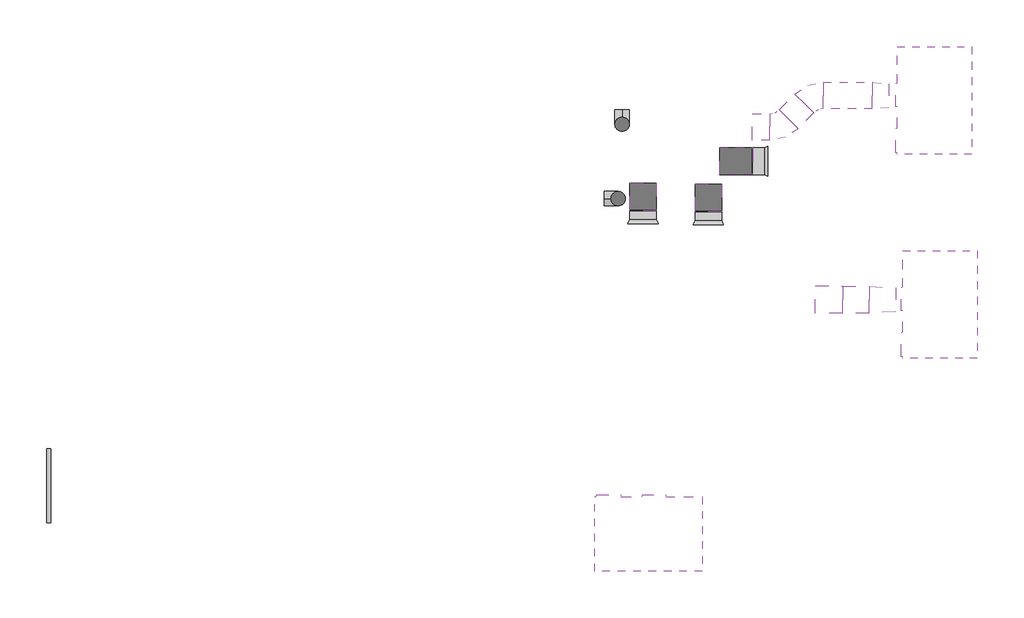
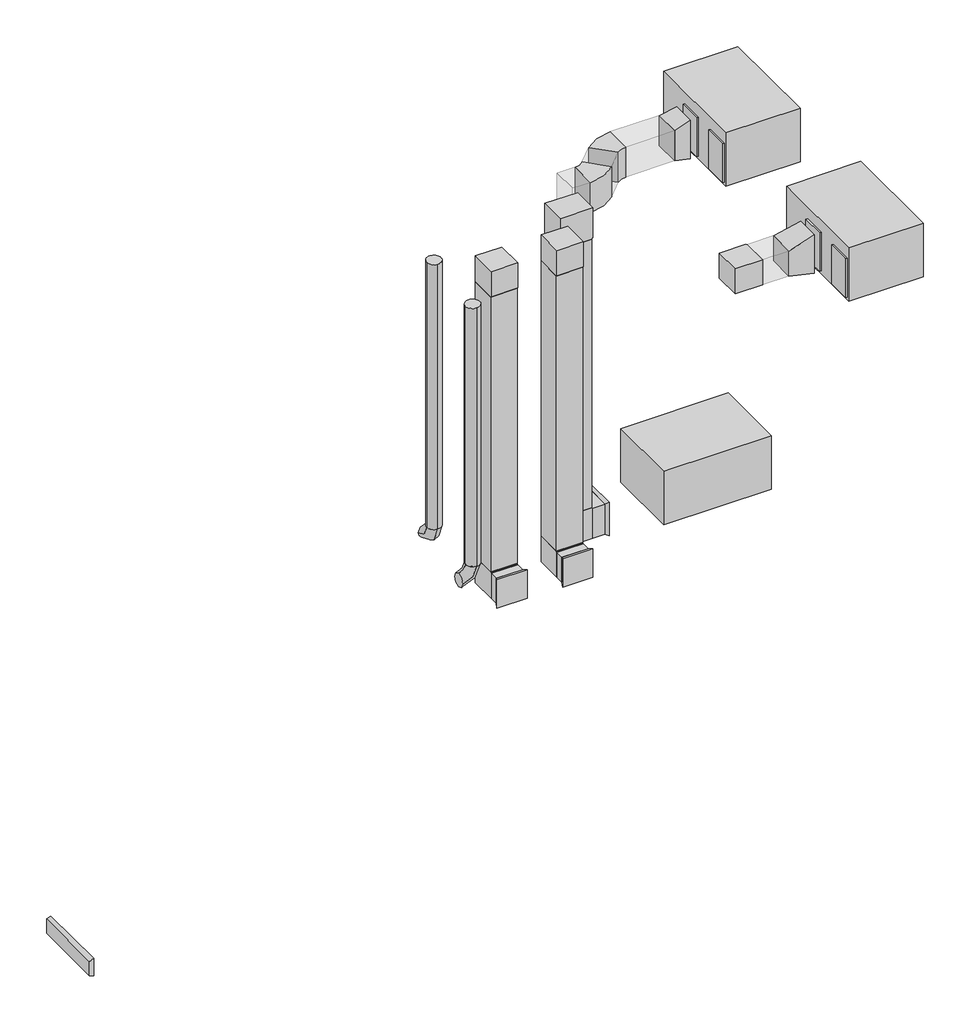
# One storey: 18 duct fittings, 12 duct segments, 3 proxies.
"""IFC4 building model written with IfcOpenShell, lengths in millimetres."""

from ifc_helpers import new_model, si_unit, point, frame, frame_2d, origin, place, context, project, spatial, polyline, circle_curve, trimmed, segment, composite_curve, outline, extrude, transform, mapped, element, save
from components import mechanical_equipment_75d9a657, rectangular_elbow_mitered_standard_415135ef, rectangular_elbow_mitered_standard_6dab44a9, rectangular_elbow_radius_1_w_3c7c7018, rectangular_transition_angle_30_degree_7e3f0487, rectangular_transition_angle_30_degree_99f9bb98, rectangular_transition_angle_45_degree_68a511a3, rectangular_transition_angle_45_degree_3b83c0c7, rectangular_transition_angle_60_degree_83ae2279, round_elbow_1_d_b161354f, round_elbow_1_d_06294a75, round_transition_angle_45_degree_2ea680a9

model = new_model("IFC4")

# Units and contexts
model_context = context("Model", 3, world=origin())
ifc_project = project(units=[si_unit("LENGTHUNIT", "METRE", prefix="MILLI")], contexts=[model_context])

# Site, building, storey
site = spatial("IfcSite", under=ifc_project)
building = spatial("IfcBuilding", under=site)
storey = spatial("IfcBuildingStorey", under=building, Name="T.O. L2 TERRANCE", Elevation=6019.8)

# Proxies
placement = place(None, origin())
mechanical_equipment_shape = mechanical_equipment_75d9a657(model_context)
element("IfcBuildingElementProxy", 1, Name="AC - Trane - 15-25 Ton : AC - Trane - 15-25 Ton", ObjectType="AC - Trane - 15-25 Ton : AC - Trane - 15-25 Ton", at=placement, inside=storey, context=model_context, shape_type="MappedRepresentation", body=[
    mapped(mechanical_equipment_shape, transform((25935.7645587, 24553.6277994, 13103.225), x_axis=(0.0, -1.0, 0.0), y_axis=(1.0, 0.0, 0.0), z_axis=(0.0, 0.0, 1.0))),
])
element("IfcBuildingElementProxy", 2, Name="AC - Trane - 15-25 Ton : AC - Trane - 15-25 Ton", ObjectType="AC - Trane - 15-25 Ton : AC - Trane - 15-25 Ton", at=placement, inside=storey, context=model_context, shape_type="MappedRepresentation", body=[
    mapped(mechanical_equipment_shape, transform((26093.4991741, 18706.9743636, 13103.225), x_axis=(0.0, -1.0, 0.0), y_axis=(1.0, 0.0, 0.0), z_axis=(0.0, 0.0, 1.0))),
])
element("IfcBuildingElementProxy", 3, Name="AC - Trane - 15-25 Ton : AC - Trane - 15-25 Ton", ObjectType="AC - Trane - 15-25 Ton : AC - Trane - 15-25 Ton", at=placement, inside=storey, context=model_context, shape_type="MappedRepresentation", body=[
    mapped(mechanical_equipment_shape, transform((17735.4015878, 12134.0231308, 13103.225), x_axis=(-1.0, 0.0, 0.0), y_axis=(0.0, -1.0, 0.0), z_axis=(0.0, 0.0, 1.0))),
])

# Duct fittings
rectangular_elbow_mitered_standard_shape = rectangular_elbow_mitered_standard_415135ef(model_context)
element("IfcDuctFitting", 4, ObjectType="Rectangular Elbow - Mitered : Standard", at=placement, inside=storey, context=model_context, shape_type="MappedRepresentation", body=[
    mapped(rectangular_elbow_mitered_standard_shape, transform((20235.8440695, 22814.3177743, 4674.87), x_axis=(0.0, 0.0, -1.0), y_axis=(1.0, 0.0, 0.0), z_axis=(0.0, -1.0, 0.0))),
])
element("IfcDuctFitting", 5, ObjectType="Rectangular Elbow - Mitered : Standard", at=placement, inside=storey, context=model_context, shape_type="MappedRepresentation", body=[
    mapped(rectangular_elbow_mitered_standard_shape, transform((20235.8440695, 22814.3177743, 13798.55), x_axis=(0.0, 0.0, 1.0), y_axis=(1.0, 0.0, 0.0), z_axis=(0.0, 1.0, 0.0))),
])
rectangular_elbow_mitered_standard_2_shape = rectangular_elbow_mitered_standard_6dab44a9(model_context)
element("IfcDuctFitting", 6, ObjectType="Rectangular Elbow - Mitered : Standard", at=placement, inside=storey, context=model_context, shape_type="MappedRepresentation", body=[
    mapped(rectangular_elbow_mitered_standard_2_shape, transform((19449.8841871, 21773.5073473, 4632.325), x_axis=(0.0, 0.0, -1.0), y_axis=(0.0, -1.0, 0.0), z_axis=(-1.0, 0.0, 0.0))),
])
element("IfcDuctFitting", 7, ObjectType="Rectangular Elbow - Mitered : Standard", at=placement, inside=storey, context=model_context, shape_type="MappedRepresentation", body=[
    mapped(rectangular_elbow_mitered_standard_2_shape, transform((17579.5449279, 21802.9058793, 4632.325), x_axis=(0.0, 0.0, -1.0), y_axis=(0.0, -1.0, 0.0), z_axis=(-1.0, 0.0, 0.0))),
])
element("IfcDuctFitting", 8, ObjectType="Rectangular Elbow - Mitered : Standard", at=placement, inside=storey, context=model_context, shape_type="MappedRepresentation", body=[
    mapped(rectangular_elbow_mitered_standard_2_shape, transform((22899.2550842, 18844.2931136, 13798.55), x_axis=(0.0, -1.0, 0.0), y_axis=(1.0, 0.0, 0.0), z_axis=(0.0, 0.0, 1.0))),
])
element("IfcDuctFitting", 9, ObjectType="Rectangular Elbow - Mitered : Standard", at=placement, inside=storey, context=model_context, shape_type="MappedRepresentation", body=[
    mapped(rectangular_elbow_mitered_standard_2_shape, transform((19449.8841871, 21773.5073473, 13798.55), x_axis=(0.0, 0.0, 1.0), y_axis=(0.0, -1.0, 0.0), z_axis=(1.0, 0.0, 0.0))),
])
element("IfcDuctFitting", 10, ObjectType="Rectangular Elbow - Mitered : Standard", at=placement, inside=storey, context=model_context, shape_type="MappedRepresentation", body=[
    mapped(rectangular_elbow_mitered_standard_2_shape, transform((17579.5449279, 21802.9058793, 13798.55), x_axis=(0.0, 0.0, 1.0), y_axis=(0.0, -1.0, 0.0), z_axis=(1.0, 0.0, 0.0))),
])
rectangular_elbow_radius_1_w_shape = rectangular_elbow_radius_1_w_3c7c7018(model_context)
element("IfcDuctFitting", 11, ObjectType="Rectangular Elbow - Radius : 1 W", at=placement, inside=storey, context=model_context, shape_type="MappedRepresentation", body=[
    mapped(rectangular_elbow_radius_1_w_shape, transform((22425.8897342, 24690.9465494, 13798.55), x_axis=(-1.0, 0.0, 0.0), y_axis=(0.0, -1.0, 0.0), z_axis=(0.0, 0.0, 1.0))),
])
element("IfcDuctFitting", 12, ObjectType="Rectangular Elbow - Radius : 1 W", at=placement, inside=storey, context=model_context, shape_type="MappedRepresentation", body=[
    mapped(rectangular_elbow_radius_1_w_shape, transform((21531.3626852, 23796.4195003, 13798.55), x_axis=(1.0, 0.0, 0.0), y_axis=(0.0, 1.0, 0.0), z_axis=(0.0, 0.0, 1.0))),
])
rectangular_transition_angle_30_degree_shape = rectangular_transition_angle_30_degree_7e3f0487(model_context)
element("IfcDuctFitting", 13, ObjectType="Rectangular Transition - Angle : 30 Degree", at=placement, inside=storey, context=model_context, shape_type="MappedRepresentation", body=[
    mapped(rectangular_transition_angle_30_degree_shape, transform((24057.2289596, 18844.2931136, 13798.55), x_axis=(1.0, 0.0, 0.0), y_axis=(0.0, 1.0, 0.0), z_axis=(0.0, 0.0, 1.0))),
])
rectangular_transition_angle_30_degree_2_shape = rectangular_transition_angle_30_degree_99f9bb98(model_context)
element("IfcDuctFitting", 14, ObjectType="Rectangular Transition - Angle : 30 Degree", at=placement, inside=storey, context=model_context, shape_type="MappedRepresentation", body=[
    mapped(rectangular_transition_angle_30_degree_2_shape, transform((24153.4943442, 24690.9465494, 13798.55), x_axis=(1.0, 0.0, 0.0), y_axis=(0.0, 1.0, 0.0), z_axis=(0.0, 0.0, 1.0))),
])
rectangular_transition_angle_45_degree_shape = rectangular_transition_angle_45_degree_68a511a3(model_context)
element("IfcDuctFitting", 15, ObjectType="Rectangular Transition - Angle : 45 Degree", at=placement, inside=storey, context=model_context, shape_type="MappedRepresentation", body=[
    mapped(rectangular_transition_angle_45_degree_shape, transform((19449.8841871, 21116.2823473, 4632.325), x_axis=(0.0, -1.0, 0.0), y_axis=(1.0, 0.0, 0.0), z_axis=(0.0, 0.0, 1.0))),
])
element("IfcDuctFitting", 16, ObjectType="Rectangular Transition - Angle : 45 Degree", at=placement, inside=storey, context=model_context, shape_type="MappedRepresentation", body=[
    mapped(rectangular_transition_angle_45_degree_shape, transform((17579.5449279, 21145.6808793, 4632.325), x_axis=(0.0, -1.0, 0.0), y_axis=(1.0, 0.0, 0.0), z_axis=(0.0, 0.0, 1.0))),
])
rectangular_transition_angle_45_degree_2_shape = rectangular_transition_angle_45_degree_3b83c0c7(model_context)
element("IfcDuctFitting", 17, ObjectType="Rectangular Transition - Angle : 45 Degree", at=placement, inside=storey, context=model_context, shape_type="MappedRepresentation", body=[
    mapped(rectangular_transition_angle_45_degree_2_shape, transform((608.8453446, 13514.942909, 4279.9), x_axis=(-1.0, 0.0, 0.0), y_axis=(0.0, -1.0, 0.0), z_axis=(0.0, 0.0, 1.0))),
])
rectangular_transition_angle_60_degree_shape = rectangular_transition_angle_60_degree_83ae2279(model_context)
element("IfcDuctFitting", 18, ObjectType="Rectangular Transition - Angle : 60 Degree", at=placement, inside=storey, context=model_context, shape_type="MappedRepresentation", body=[
    mapped(rectangular_transition_angle_60_degree_shape, transform((21065.6398167, 22814.3177743, 4674.87), x_axis=(1.0, 0.0, 0.0), y_axis=(0.0, 1.0, 0.0), z_axis=(0.0, 0.0, 1.0))),
])
round_elbow_1_d_shape = round_elbow_1_d_b161354f(model_context)
element("IfcDuctFitting", 19, ObjectType="Round Elbow : 1 D", at=placement, inside=storey, context=model_context, shape_type="MappedRepresentation", body=[
    mapped(round_elbow_1_d_shape, transform((16978.9333005, 23873.4581183, 4648.2), x_axis=(0.0, 0.0, -1.0), y_axis=(0.0, 1.0, 0.0), z_axis=(1.0, 0.0, 0.0))),
])
round_elbow_1_d_2_shape = round_elbow_1_d_06294a75(model_context)
element("IfcDuctFitting", 20, ObjectType="Round Elbow : 1 D", at=placement, inside=storey, context=model_context, shape_type="MappedRepresentation", body=[
    mapped(round_elbow_1_d_2_shape, transform((16864.6333005, 21745.3274801, 4861.3689858), x_axis=(0.0, 0.0, -1.0), y_axis=(-1.0, 0.0, 0.0), z_axis=(0.0, 1.0, 0.0))),
])
round_transition_angle_45_degree_shape = round_transition_angle_45_degree_2ea680a9(model_context)
element("IfcDuctFitting", 21, ObjectType="Round Transition - Angle : 45 Degree", at=placement, inside=storey, context=model_context, shape_type="MappedRepresentation", body=[
    mapped(round_transition_angle_45_degree_shape, transform((16864.6333005, 21742.1524801, 5265.740504), x_axis=(0.0, 0.0, -1.0), y_axis=(0.0, -1.0, 0.0), z_axis=(-1.0, 0.0, 0.0))),
])

# Duct segments
element("IfcDuctSegment", 22, ObjectType="Mitered Elbows / Taps", at=placement, inside=storey, context=model_context, shape_type="SweptSolid", body=[
    extrude(outline(polyline([(20693.0440695, 22433.3177743), (19778.6440695, 22433.3177743), (19778.6440695, 23195.3177743), (20693.0440695, 23195.3177743), (20693.0440695, 22433.3177743)])), frame((0.0, 0.0, 5157.47), z_axis=(0.0, 0.0, 1.0), x_axis=(1.0, 0.0, 0.0)), (0.0, 0.0, 1.0), 8158.48),
])
element("IfcDuctSegment", 23, ObjectType="Mitered Elbows / Taps", at=placement, inside=storey, context=model_context, shape_type="SweptSolid", body=[
    extrude(outline(polyline([(20718.4440695, 22433.3177743), (20718.4440695, 23195.3177743), (21065.6398167, 23195.3177743), (21065.6398167, 22433.3177743), (20718.4440695, 22433.3177743)])), frame((0.0, 0.0, 4217.67), z_axis=(0.0, 0.0, 1.0), x_axis=(1.0, 0.0, 0.0)), (0.0, 0.0, 1.0), 914.4),
])
element("IfcDuctSegment", 24, ObjectType="Mitered Elbows / Taps", at=placement, inside=storey, context=model_context, shape_type="SweptSolid", body=[
    extrude(outline(polyline([(19830.8841871, 22154.5073473), (19830.8841871, 21392.5073473), (19068.8841871, 21392.5073473), (19068.8841871, 22154.5073473), (19830.8841871, 22154.5073473)])), frame((0.0, 0.0, 5038.725), z_axis=(0.0, 0.0, 1.0), x_axis=(1.0, 0.0, 0.0)), (0.0, 0.0, 1.0), 8353.425),
])
element("IfcDuctSegment", 25, ObjectType="Mitered Elbows / Taps", at=placement, inside=storey, context=model_context, shape_type="SweptSolid", body=[
    extrude(outline(polyline([(19068.8841871, 21367.1073473), (19830.8841871, 21367.1073473), (19830.8841871, 21116.2823473), (19068.8841871, 21116.2823473), (19068.8841871, 21367.1073473)])), frame((0.0, 0.0, 4251.325), z_axis=(0.0, 0.0, 1.0), x_axis=(1.0, 0.0, 0.0)), (0.0, 0.0, 1.0), 762.0),
])
element("IfcDuctSegment", 26, ObjectType="Mitered Elbows / Taps", at=placement, inside=storey, context=model_context, shape_type="SweptSolid", body=[
    extrude(outline(polyline([(17960.5449279, 22183.9058793), (17960.5449279, 21421.9058793), (17198.5449279, 21421.9058793), (17198.5449279, 22183.9058793), (17960.5449279, 22183.9058793)])), frame((0.0, 0.0, 5038.725), z_axis=(0.0, 0.0, 1.0), x_axis=(1.0, 0.0, 0.0)), (0.0, 0.0, 1.0), 8353.425),
])
element("IfcDuctSegment", 27, ObjectType="Mitered Elbows / Taps", at=placement, inside=storey, context=model_context, shape_type="SweptSolid", body=[
    extrude(outline(polyline([(17198.5449279, 21396.5058793), (17960.5449279, 21396.5058793), (17960.5449279, 21145.6808793), (17198.5449279, 21145.6808793), (17198.5449279, 21396.5058793)])), frame((0.0, 0.0, 4251.325), z_axis=(0.0, 0.0, 1.0), x_axis=(1.0, 0.0, 0.0)), (0.0, 0.0, 1.0), 762.0),
])
element("IfcDuctSegment", 28, ObjectType="Mitered Elbows / Taps", at=placement, inside=storey, context=model_context, shape_type="SweptSolid", body=[
    extrude(outline(polyline([(24153.4943442, 25071.9465494), (24153.4943442, 24309.9465494), (22741.5204688, 24309.9465494), (22741.5204688, 25071.9465494), (24153.4943442, 25071.9465494)])), frame((0.0, 0.0, 13341.35), z_axis=(0.0, 0.0, 1.0), x_axis=(1.0, 0.0, 0.0)), (0.0, 0.0, 1.0), 914.4),
])
element("IfcDuctSegment", 29, ObjectType="Mitered Elbows / Taps", at=placement, inside=storey, context=model_context, shape_type="SweptSolid", body=[
    extrude(outline(polyline([(21933.2974179, 24737.1696002), (22472.1127851, 24198.354233), (22023.9550015, 23750.1964494), (21485.1396343, 24289.0118167), (21933.2974179, 24737.1696002)])), frame((0.0, 0.0, 13341.35), z_axis=(0.0, 0.0, 1.0), x_axis=(1.0, 0.0, 0.0)), (0.0, 0.0, 1.0), 914.4),
])
element("IfcDuctSegment", 30, ObjectType="Mitered Elbows / Taps", at=placement, inside=storey, context=model_context, shape_type="SweptSolid", body=[
    extrude(outline(polyline([(20707.5472431, 23415.4195003), (20707.5472431, 24177.4195003), (21215.7319506, 24177.4195003), (21215.7319506, 23415.4195003), (20707.5472431, 23415.4195003)])), frame((0.0, 0.0, 13341.35), z_axis=(0.0, 0.0, 1.0), x_axis=(1.0, 0.0, 0.0)), (0.0, 0.0, 1.0), 914.4),
])
element("IfcDuctSegment", 31, ObjectType="Mitered Elbows / Taps", at=placement, inside=storey, context=model_context, shape_type="SweptSolid", body=[
    extrude(outline(polyline([(24057.2289596, 19225.2931136), (24057.2289596, 18463.2931136), (23305.6550842, 18463.2931136), (23305.6550842, 19225.2931136), (24057.2289596, 19225.2931136)])), frame((0.0, 0.0, 13417.55), z_axis=(0.0, 0.0, 1.0), x_axis=(1.0, 0.0, 0.0)), (0.0, 0.0, 1.0), 762.0),
])
element("IfcDuctSegment", 32, ObjectType="Taps", at=placement, inside=storey, context=model_context, shape_type="SweptSolid", body=[
    extrude(outline(composite_curve([segment(trimmed(circle_curve(frame_2d((16978.9333005, 23873.4581183)), 206.375), [point((16978.9333005, 24079.8331183))], [point((17185.3083005, 23873.4581183))], False, "CARTESIAN"), True, "CONTINUOUS"), segment(trimmed(circle_curve(frame_2d((16978.9333005, 23873.4581183)), 206.375), [point((17185.3083005, 23873.4581183))], [point((16978.9333005, 23667.0831183))], False, "CARTESIAN"), True, "CONTINUOUS"), segment(trimmed(circle_curve(frame_2d((16978.9333005, 23873.4581183)), 206.375), [point((16978.9333005, 23667.0831183))], [point((16772.5583005, 23873.4581183))], False, "CARTESIAN"), True, "CONTINUOUS"), segment(trimmed(circle_curve(frame_2d((16978.9333005, 23873.4581183)), 206.375), [point((16772.5583005, 23873.4581183))], [point((16978.9333005, 24079.8331183))], False, "CARTESIAN"), True, "CONTINUOUS")], self_intersect=False)), frame((0.0, 0.0, 5060.95), z_axis=(0.0, 0.0, 1.0), x_axis=(1.0, 0.0, 0.0)), (0.0, 0.0, 1.0), 8045.45),
])
element("IfcDuctSegment", 33, ObjectType="Taps", at=placement, inside=storey, context=model_context, shape_type="SweptSolid", body=[
    extrude(outline(composite_curve([segment(trimmed(circle_curve(frame_2d((16864.6333005, 21742.1524801)), 206.375), [point((16864.6333005, 21948.5274801))], [point((17071.0083005, 21742.1524801))], False, "CARTESIAN"), True, "CONTINUOUS"), segment(trimmed(circle_curve(frame_2d((16864.6333005, 21742.1524801)), 206.375), [point((17071.0083005, 21742.1524801))], [point((16864.6333005, 21535.7774801))], False, "CARTESIAN"), True, "CONTINUOUS"), segment(trimmed(circle_curve(frame_2d((16864.6333005, 21742.1524801)), 206.375), [point((16864.6333005, 21535.7774801))], [point((16658.2583005, 21742.1524801))], False, "CARTESIAN"), True, "CONTINUOUS"), segment(trimmed(circle_curve(frame_2d((16864.6333005, 21742.1524801)), 206.375), [point((16658.2583005, 21742.1524801))], [point((16864.6333005, 21948.5274801))], False, "CARTESIAN"), True, "CONTINUOUS")], self_intersect=False)), frame((0.0, 0.0, 5265.740504), z_axis=(0.0, 0.0, 1.0), x_axis=(1.0, 0.0, 0.0)), (0.0, 0.0, 1.0), 7840.659496),
])

save(model, "model.ifc")
